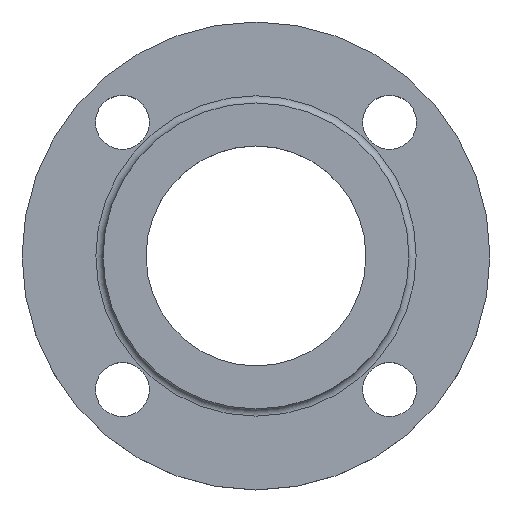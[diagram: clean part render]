
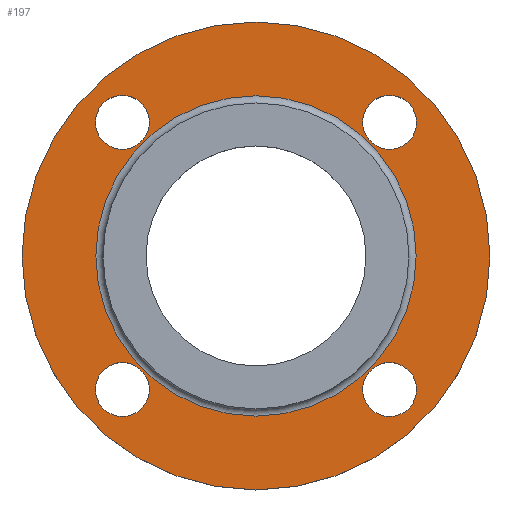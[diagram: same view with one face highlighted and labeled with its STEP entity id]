
A CAD part, top view. The second image highlights one B-rep face of the part: STEP entity #197.
In plain terms, the highlighted planar face has unit normal (0, 0, 1).
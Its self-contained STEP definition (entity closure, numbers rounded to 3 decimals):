
#33=FACE_BOUND('',#59,.T.);
#34=FACE_BOUND('',#60,.T.);
#35=FACE_BOUND('',#61,.T.);
#36=FACE_BOUND('',#62,.T.);
#37=FACE_BOUND('',#63,.T.);
#44=PLANE('',#232);
#48=FACE_OUTER_BOUND('',#58,.T.);
#58=EDGE_LOOP('',(#149,#150));
#59=EDGE_LOOP('',(#151));
#60=EDGE_LOOP('',(#152));
#61=EDGE_LOOP('',(#153));
#62=EDGE_LOOP('',(#154));
#63=EDGE_LOOP('',(#155,#156));
#78=CIRCLE('',#227,44.5);
#82=CIRCLE('',#231,44.5);
#83=CIRCLE('',#233,65.);
#84=CIRCLE('',#234,65.);
#85=CIRCLE('',#235,7.5);
#86=CIRCLE('',#236,7.5);
#87=CIRCLE('',#237,7.5);
#88=CIRCLE('',#238,7.5);
#98=VERTEX_POINT('',#326);
#99=VERTEX_POINT('',#327);
#102=VERTEX_POINT('',#336);
#103=VERTEX_POINT('',#337);
#104=VERTEX_POINT('',#340);
#105=VERTEX_POINT('',#342);
#106=VERTEX_POINT('',#344);
#107=VERTEX_POINT('',#346);
#117=EDGE_CURVE('',#98,#99,#78,.T.);
#121=EDGE_CURVE('',#99,#98,#82,.T.);
#122=EDGE_CURVE('',#102,#103,#83,.T.);
#123=EDGE_CURVE('',#103,#102,#84,.T.);
#124=EDGE_CURVE('',#104,#104,#85,.T.);
#125=EDGE_CURVE('',#105,#105,#86,.T.);
#126=EDGE_CURVE('',#106,#106,#87,.T.);
#127=EDGE_CURVE('',#107,#107,#88,.T.);
#149=ORIENTED_EDGE('',*,*,#122,.F.);
#150=ORIENTED_EDGE('',*,*,#123,.F.);
#151=ORIENTED_EDGE('',*,*,#124,.F.);
#152=ORIENTED_EDGE('',*,*,#125,.F.);
#153=ORIENTED_EDGE('',*,*,#126,.F.);
#154=ORIENTED_EDGE('',*,*,#127,.F.);
#155=ORIENTED_EDGE('',*,*,#117,.F.);
#156=ORIENTED_EDGE('',*,*,#121,.F.);
#197=ADVANCED_FACE('',(#48,#33,#34,#35,#36,#37),#44,.T.);
#227=AXIS2_PLACEMENT_3D('',#328,#260,#261);
#231=AXIS2_PLACEMENT_3D('',#334,#268,#269);
#232=AXIS2_PLACEMENT_3D('',#335,#270,#271);
#233=AXIS2_PLACEMENT_3D('',#338,#272,#273);
#234=AXIS2_PLACEMENT_3D('',#339,#274,#275);
#235=AXIS2_PLACEMENT_3D('',#341,#276,#277);
#236=AXIS2_PLACEMENT_3D('',#343,#278,#279);
#237=AXIS2_PLACEMENT_3D('',#345,#280,#281);
#238=AXIS2_PLACEMENT_3D('',#347,#282,#283);
#260=DIRECTION('center_axis',(0.,0.,1.));
#261=DIRECTION('ref_axis',(-1.,0.,0.));
#268=DIRECTION('center_axis',(0.,0.,1.));
#269=DIRECTION('ref_axis',(-1.,0.,0.));
#270=DIRECTION('center_axis',(0.,0.,1.));
#271=DIRECTION('ref_axis',(1.,0.,0.));
#272=DIRECTION('center_axis',(0.,0.,-1.));
#273=DIRECTION('ref_axis',(1.,0.,0.));
#274=DIRECTION('center_axis',(0.,0.,-1.));
#275=DIRECTION('ref_axis',(1.,0.,0.));
#276=DIRECTION('center_axis',(0.,0.,1.));
#277=DIRECTION('ref_axis',(1.,0.,0.));
#278=DIRECTION('center_axis',(0.,0.,1.));
#279=DIRECTION('ref_axis',(0.,1.,0.));
#280=DIRECTION('center_axis',(0.,0.,1.));
#281=DIRECTION('ref_axis',(-1.,0.,0.));
#282=DIRECTION('center_axis',(0.,0.,1.));
#283=DIRECTION('ref_axis',(0.,-1.,0.));
#326=CARTESIAN_POINT('',(44.5,0.,12.));
#327=CARTESIAN_POINT('',(-44.5,0.,12.));
#328=CARTESIAN_POINT('Origin',(0.,0.,12.));
#334=CARTESIAN_POINT('Origin',(0.,0.,12.));
#335=CARTESIAN_POINT('Origin',(0.,0.,12.));
#336=CARTESIAN_POINT('',(65.,0.,12.));
#337=CARTESIAN_POINT('',(-65.,0.,12.));
#338=CARTESIAN_POINT('Origin',(0.,0.,12.));
#339=CARTESIAN_POINT('Origin',(0.,0.,12.));
#340=CARTESIAN_POINT('',(-44.623,37.123,12.));
#341=CARTESIAN_POINT('Origin',(-37.123,37.123,12.));
#342=CARTESIAN_POINT('',(-37.123,-44.623,12.));
#343=CARTESIAN_POINT('Origin',(-37.123,-37.123,12.));
#344=CARTESIAN_POINT('',(44.623,-37.123,12.));
#345=CARTESIAN_POINT('Origin',(37.123,-37.123,12.));
#346=CARTESIAN_POINT('',(37.123,44.623,12.));
#347=CARTESIAN_POINT('Origin',(37.123,37.123,12.));
